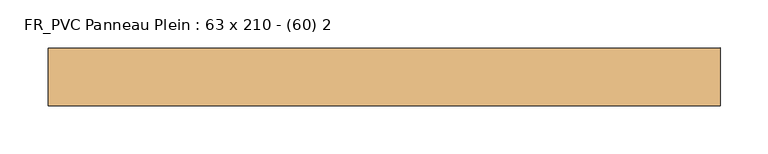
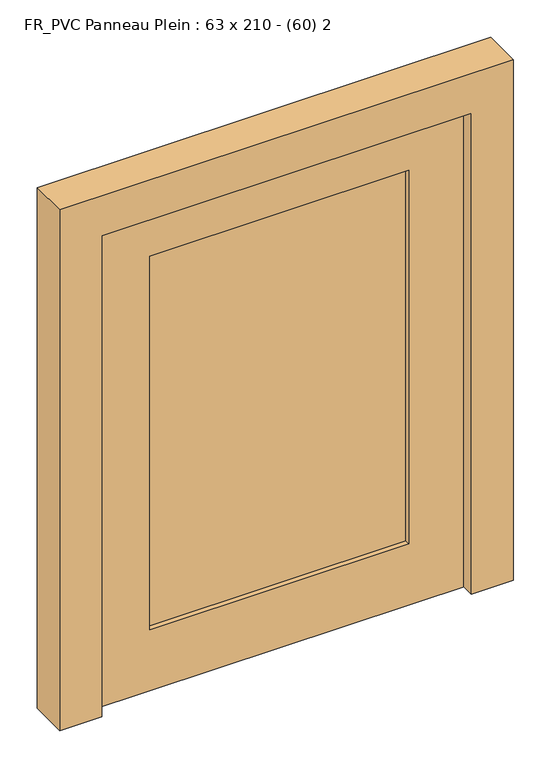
"""IFC4 building model written with IfcOpenShell, lengths in millimetres: door geometry, FR_PVC Panneau Plein : 63 x 210 - (60) 2."""

from ifc_helpers import new_model, si_unit, origin, place, context, project, spatial, faceted_brep, source, transform, mapped, element, save


def fr_pvc_panneau_plein_63_x_210_60_2_9b27eb45(model_context):
    return source(origin(), model_context, "Body", "Brep", [
        faceted_brep([(-350.0, 88.7935702, 0.0), (-300.0, 88.7935702, 0.0), (-300.0, 48.7935702, 0.0), (-285.0, 48.7935702, 0.0), (-285.0, 28.7935702, 0.0), (-350.0, 28.7935702, 0.0), (-350.0, 28.7935702, 850.0), (-350.0, 88.7935702, 850.0), (-285.0, 28.7935702, 785.0), (285.0, 28.7935702, 785.0), (285.0, 28.7935702, 0.0), (350.0, 28.7935702, 0.0), (350.0, 28.7935702, 850.0), (-285.0, 48.7935702, 785.0), (-300.0, 48.7935702, 800.0), (300.0, 48.7935702, 800.0), (300.0, 48.7935702, 0.0), (285.0, 48.7935702, 0.0), (285.0, 48.7935702, 785.0), (-300.0, 88.7935702, 800.0), (350.0, 88.7935702, 850.0), (350.0, 88.7935702, 0.0), (300.0, 88.7935702, 0.0), (300.0, 88.7935702, 800.0)], [[[0, 1, 2, 3, 4, 5]], [[5, 6, 7, 0]], [[4, 8, 9, 10, 11, 12, 6, 5]], [[3, 13, 8, 4]], [[2, 14, 15, 16, 17, 18, 13, 3]], [[1, 19, 14, 2]], [[0, 7, 20, 21, 22, 23, 19, 1]], [[11, 21, 20, 12]], [[10, 17, 16, 22, 21, 11]], [[9, 18, 17, 10]], [[15, 23, 22, 16]], [[6, 12, 20, 7]], [[8, 13, 18, 9]], [[14, 19, 23, 15]]]),
        faceted_brep([(-300.0, 88.7935702, 800.0), (300.0, 88.7935702, 800.0), (300.0, 88.7935702, 0.0), (-300.0, 88.7935702, 0.0), (200.0, 88.7935702, 710.0), (-200.0, 88.7935702, 710.0), (-200.0, 88.7935702, 100.0), (200.0, 88.7935702, 100.0), (-300.0, 48.7935702, 800.0), (-300.0, 48.7935702, 0.0), (300.0, 48.7935702, 0.0), (300.0, 48.7935702, 800.0), (-200.0, 48.7935702, 710.0), (200.0, 48.7935702, 710.0), (200.0, 48.7935702, 100.0), (-200.0, 48.7935702, 100.0), (200.0, 80.7935702, 710.0), (200.0, 80.7935702, 100.0), (-200.0, 80.7935702, 100.0), (-200.0, 80.7935702, 710.0), (-200.0, 56.7935702, 710.0), (-200.0, 56.7935702, 100.0), (200.0, 56.7935702, 100.0), (200.0, 56.7935702, 710.0)], [[[0, 1, 2, 3], [4, 5, 6, 7]], [[8, 9, 10, 11], [12, 13, 14, 15]], [[3, 9, 8, 0]], [[2, 10, 9, 3]], [[1, 11, 10, 2]], [[0, 8, 11, 1]], [[16, 17, 18, 19]], [[16, 4, 7, 17]], [[17, 7, 6, 18]], [[18, 6, 5, 19]], [[19, 5, 4, 16]], [[20, 21, 22, 23]], [[20, 12, 15, 21]], [[21, 15, 14, 22]], [[22, 14, 13, 23]], [[23, 13, 12, 20]]]),
    ])


if __name__ == "__main__":
    model = new_model("IFC4")
    model_context = context("Model", 3, world=origin())
    ifc_project = project(units=[si_unit("LENGTHUNIT", "METRE", prefix="MILLI")], contexts=[model_context])
    site = spatial("IfcSite", under=ifc_project)
    building = spatial("IfcBuilding", under=site)
    placement = place(None, origin())
    fr_pvc_panneau_plein_63_x_210_60_2_shape = fr_pvc_panneau_plein_63_x_210_60_2_9b27eb45(model_context)
    element("IfcDoor", 1, ObjectType="FR_PVC Panneau Plein : 63 x 210 - (60) 2", at=placement, inside=building, context=model_context, shape_type="MappedRepresentation", body=[
        mapped(fr_pvc_panneau_plein_63_x_210_60_2_shape, transform((0.0, 0.0, 0.0), x_axis=(1.0, 0.0, 0.0), y_axis=(0.0, 1.0, 0.0), z_axis=(0.0, 0.0, 1.0))),
    ])
    save(model, "model.ifc")
